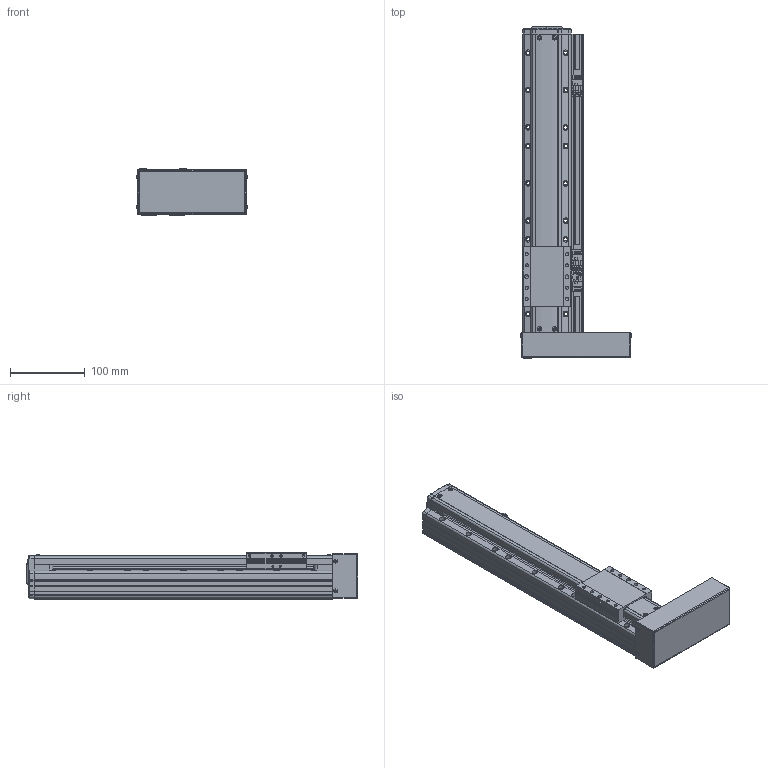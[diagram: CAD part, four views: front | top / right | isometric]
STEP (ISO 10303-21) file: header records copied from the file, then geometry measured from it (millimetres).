
FILE_DESCRIPTION(('STEP AP214'),'1');
FILE_NAME('Z:/Web/3D/PSA65/STP/PSA65-250 (3D)/PSA65ㅁㅁ-250PR+3SR.stp','2014-06-25T03:43:35',(' '),(' '),'Spatial InterOp 3D',' ',' ');
FILE_SCHEMA(('automotive_design'));
Length unit declared in the file: millimetre
Products named in the file (67): SLIDE; RRCV-PA060; 1; 2; 3; 4; 5; 6; 7; 8; 9; 10; 11; 12; 13; 14; 15; 16; 17; 18; 19; 20; 21; 22; 23; 24; 25; 26; 27; 28; 29; 30; 31; 스크루 : Round - M3.0 x 8.0; RN8 x 0.75; SHAFT-SAN65; BASE; 스크루 : Round - M3.0 x 6.0; BTCV-SAN65; BHCS M3 X 6L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
Bounding box: 149.13 x 444.8 x 62 mm (x, y, z)
Volume: 1597382.6 mm3; surface area: 274145.6 mm2
Topology: 67 solids, 67 shells, 2264 faces, 5967 edges, 3832 vertices
Faces by surface type: plane 1391, cylinder 589, cone 199, sphere 50, bspline 19, torus 16
Entity records: 89618 total; most frequent: CARTESIAN_POINT 13739, DIRECTION 12014, ORIENTED_EDGE 11682, EDGE_CURVE 5841, LINE 4120, VECTOR 4120, AXIS2_PLACEMENT_3D 3947, VERTEX_POINT 3832
